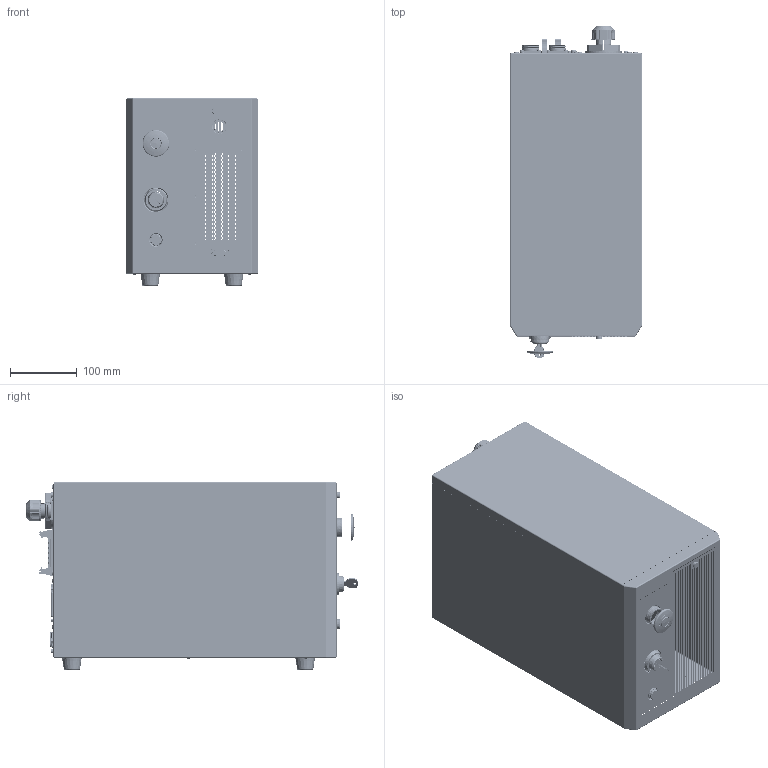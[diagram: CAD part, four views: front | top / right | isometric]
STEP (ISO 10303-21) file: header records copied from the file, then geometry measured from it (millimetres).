
FILE_DESCRIPTION(/* description */ (''),/* implementation_level */ '2;1');
FILE_NAME(/* name */ '',/* time_stamp */ '2024-10-21T13:07:41+09:00',/* author */ (''),/* organization */ (''),/* preprocessor_version */ 'ST-DEVELOPER v20',/* originating_system */ 'Autodesk Translation Framework v13.20.0.188',/* authorisation */ '');
FILE_SCHEMA (('AUTOMOTIVE_DESIGN { 1 0 10303 214 3 1 1 }'));
Products named in the file (2): 外観用　コントローラー　A
SSY; PL2000F_コントローラー
Assembly tree (1 placements, depth 2):
  外観用　コントローラー　A
SSY
    PL2000F_コントローラー
Bounding box: 198 x 497.8 x 281 mm (x, y, z)
Surface area: 542761.2 mm2 (no closed solid volume)
Topology: 0 solids, 4183 shells, 4203 faces, 23949 edges, 23649 vertices
Faces by surface type: plane 2713, cylinder 904, bspline 235, cone 172, torus 112, sphere 67
Full cylindrical faces by diameter (mm): 0.326 x1, 0.327 x1, 1.02 x33, 2.4 x6, 2.54 x8, 4.5 x1, 5 x2, 6 x2, 6.9 x6, 7 x6, 8.3 x1, 8.5 x2, 9.6 x1, 14 x4, 17 x1, 18 x2, 24.2 x1, 24.617 x10, 25.7 x10, 40 x1
Entity records: 280476 total; most frequent: CARTESIAN_POINT 84586, DIRECTION 38586, ORIENTED_EDGE 24205, EDGE_CURVE 23915, VERTEX_POINT 23649, LINE 14452, VECTOR 14452, AXIS2_PLACEMENT_3D 12067
